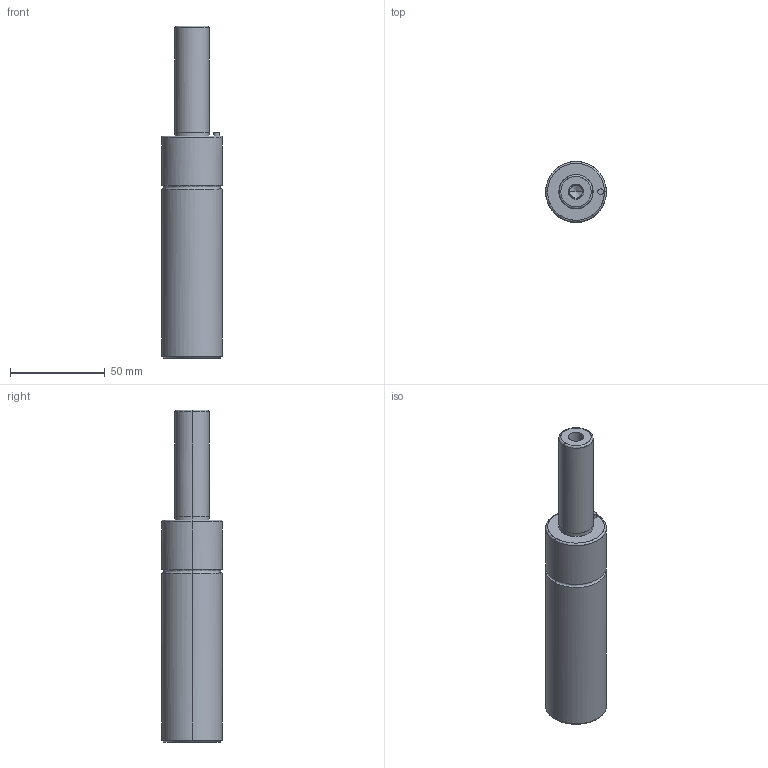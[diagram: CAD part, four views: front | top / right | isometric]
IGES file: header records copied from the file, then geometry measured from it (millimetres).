
Global section: file name: E:\UnigraphicsGraphicData\MISUMI_PRESS-PARTS\IGES\3d_gsm32-56_03920_r00.igs; native system: NX V5.0; preprocessor: UGS NX IGES V5.0; author: MISUMI; date: 20110105.160811; units: millimetre
Bounding box: 32 x 31.95 x 175 mm (x, y, z)
Surface area: 17508 mm2 (no closed solid volume)
Topology: 0 solids, 0 shells, 50 faces, 328 edges, 320 vertices
Faces by surface type: bspline 50
